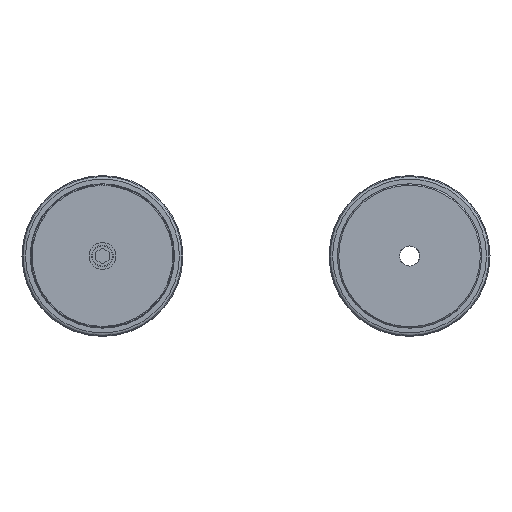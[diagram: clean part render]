
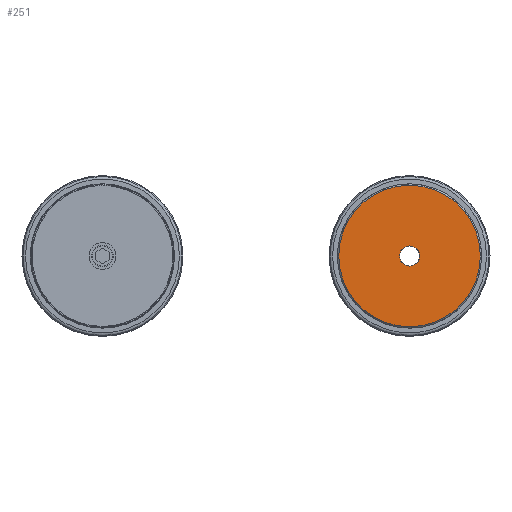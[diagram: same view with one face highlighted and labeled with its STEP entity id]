
A CAD part, left-side view. The second image highlights one B-rep face of the part: STEP entity #251.
In plain terms, the highlighted planar face has unit normal (-1, 0, 0).
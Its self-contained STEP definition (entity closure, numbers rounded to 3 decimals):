
#251 = ADVANCED_FACE( 'NONE', ( #447, #448 ), #449, .F. );
#447 = FACE_OUTER_BOUND( '', #768, .T. );
#448 = FACE_BOUND( '', #769, .T. );
#449 = PLANE( '', #770 );
#768 = EDGE_LOOP( '', ( #1111 ) );
#769 = EDGE_LOOP( '', ( #1112 ) );
#770 = AXIS2_PLACEMENT_3D( '', #1113, #1114, #1115 );
#1111 = ORIENTED_EDGE( '', *, *, #1727, .T. );
#1112 = ORIENTED_EDGE( '', *, *, #1719, .F. );
#1113 = CARTESIAN_POINT( '', ( 0., 1.5, 0. ) );
#1114 = DIRECTION( '', ( 1., 0., 0. ) );
#1115 = DIRECTION( '', ( 0., 1., 0. ) );
#1719 = EDGE_CURVE( 'NONE', #1876, #1876, #1877, .F. );
#1727 = EDGE_CURVE( 'NONE', #1892, #1892, #1893, .F. );
#1876 = VERTEX_POINT( '', #2115 );
#1877 = CIRCLE( '', #2116, 1.5 );
#1892 = VERTEX_POINT( '', #2221 );
#1893 = CIRCLE( '', #2222, 10.55 );
#2115 = CARTESIAN_POINT( '', ( 0., 0., -1.5 ) );
#2116 = AXIS2_PLACEMENT_3D( '', #2792, #2793, #2794 );
#2221 = CARTESIAN_POINT( '', ( 0., 0., -10.55 ) );
#2222 = AXIS2_PLACEMENT_3D( '', #2800, #2801, #2802 );
#2792 = CARTESIAN_POINT( '', ( 0., 0., 0. ) );
#2793 = DIRECTION( '', ( 1., 0., 0. ) );
#2794 = DIRECTION( '', ( 0., 0., -1. ) );
#2800 = CARTESIAN_POINT( '', ( 0., 0., 0. ) );
#2801 = DIRECTION( '', ( 1., 0., 0. ) );
#2802 = DIRECTION( '', ( 0., 0., -1. ) );
